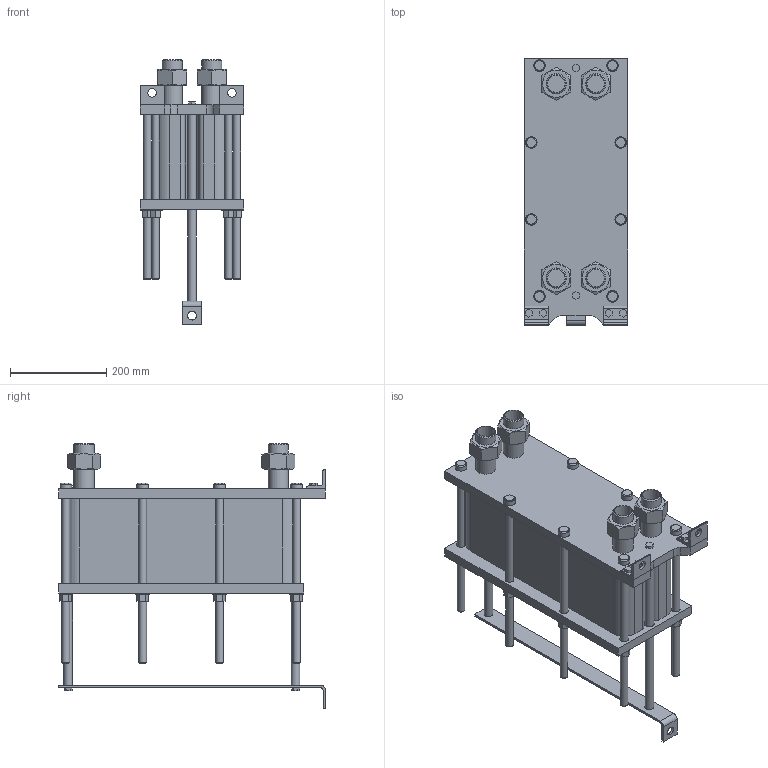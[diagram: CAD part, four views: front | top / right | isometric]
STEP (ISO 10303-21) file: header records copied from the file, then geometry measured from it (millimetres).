
FILE_DESCRIPTION(/* description */ (''),/* implementation_level */ '2;1');
FILE_NAME(/* name */ 'C:\Users\zhuro\Desktop\ENCO\TO\ЭН-004\ЭН-0,5-004-57-1.stp',/* time_stamp */ '2022-06-06T10:47:45+03:00',/* author */ ('zhuro'),/* organization */ (''),/* preprocessor_version */ 'ST-DEVELOPER v18.1',/* originating_system */ 'Autodesk Inventor 2022',/* authorisation */ '');
FILE_SCHEMA (('AUTOMOTIVE_DESIGN { 1 0 10303 214 3 1 1 }'));
Length unit declared in the file: millimetre
Products named in the file (1): ЭН-0,5-004-57-1
Bounding box: 216 x 555 x 550.6 mm (x, y, z)
Volume: 18855398.1 mm3; surface area: 1341521.1 mm2
Topology: 40 solids, 40 shells, 403 faces, 865 edges, 574 vertices
Faces by surface type: plane 272, cylinder 103, cone 28
Full cylindrical faces by diameter (mm): 10 x4, 16 x16, 18 x29, 20 x2, 24 x8, 28 x8, 36.3 x5, 42.3 x9
Entity records: 11137 total; most frequent: CARTESIAN_POINT 1939, DIRECTION 1879, ORIENTED_EDGE 1730, EDGE_CURVE 865, AXIS2_PLACEMENT_3D 658, VERTEX_POINT 574, LINE 563, VECTOR 563
